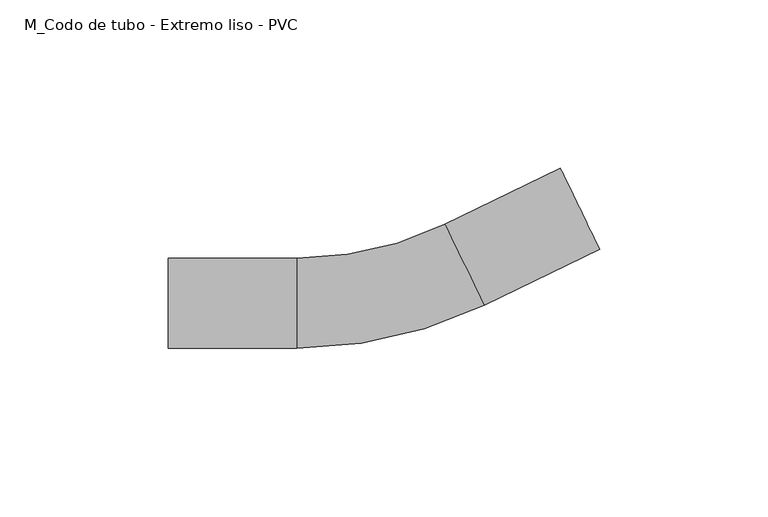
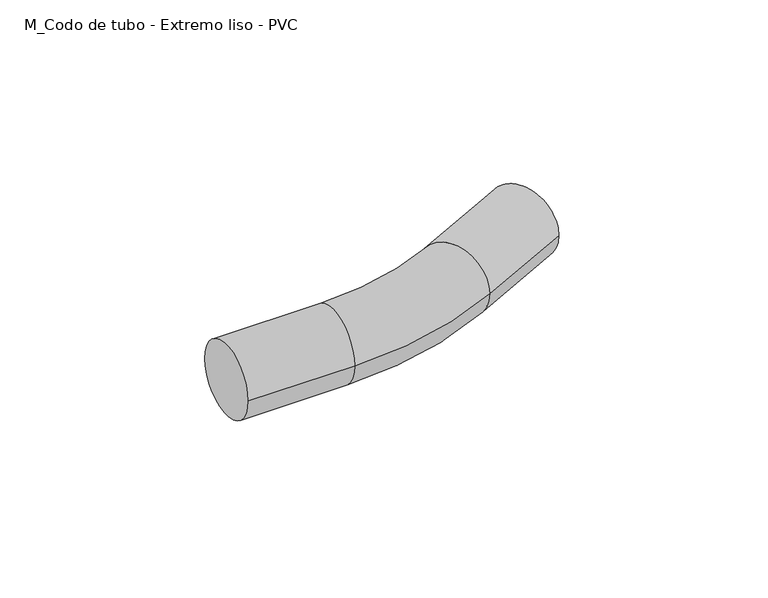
"""IFC4 building model written with IfcOpenShell, lengths in millimetres: cable carrier fitting geometry, M_Codo de tubo - Extremo liso - PVC : CODO POTENCIA."""

import ifcopenshell
import ifcopenshell.guid

model = None  # the IFC model being written
_history = None  # IfcOwnerHistory: only IFC2X3 demands one
_inside = {}  # id of a spatial element -> (the spatial element, [elements in it])
_under = {}  # id of a project, library or spatial element -> (it, [spatial elements below it])
_declared = {}  # id of a project -> (the project, [libraries it declares])
_typed = {}  # id of a type object -> (the type object, [elements of that type])
_made_of = {}  # id of a material, layer set ... -> (it, [elements and type objects made of it])


def new_model(schema):
    """Start an empty IFC model of exactly this schema.

    Asked for "IFC4X3", IfcOpenShell would pick the latest addendum, in which some entities
    have other attributes; the version numbers below select the first issue.
    IFC2X3 requires an IfcOwnerHistory on every rooted entity: one is made here for all.
    """
    global model, _history
    if schema == "IFC4X3":
        model = ifcopenshell.file(schema_version=(4, 3, 0, 0))
    else:
        model = ifcopenshell.file(schema=schema)
    _inside.clear()
    _under.clear()
    _declared.clear()
    _typed.clear()
    _made_of.clear()
    _history = None
    if model.schema == "IFC2X3":
        org = make("IfcOrganization", Name="unknown")
        user = make(
            "IfcPersonAndOrganization",
            ThePerson=make("IfcPerson", FamilyName="unknown"),
            TheOrganization=org,
        )
        app = make(
            "IfcApplication",
            ApplicationDeveloper=org,
            Version="unknown",
            ApplicationFullName="unknown",
            ApplicationIdentifier="unknown",
        )
        _history = make(
            "IfcOwnerHistory",
            OwningUser=user,
            OwningApplication=app,
            ChangeAction="ADDED",
            CreationDate=0,
        )
    return model


def make(cls, **values):
    """One entity of the class cls with the attributes given. An attribute that is None is left unset."""
    return model.create_entity(
        cls, **{name: value for name, value in values.items() if value is not None}
    )


def rooted(cls, **values):
    """An entity with a GlobalId (a new one), such as an element, a storey or a relation."""
    return make(cls, GlobalId=ifcopenshell.guid.new(), OwnerHistory=_history, **values)


def si_unit(unit_type, name, prefix=None):
    """IfcSIUnit, for example si_unit("LENGTHUNIT", "METRE", prefix="MILLI")."""
    return make("IfcSIUnit", UnitType=unit_type, Prefix=prefix, Name=name)


def assignment(units):
    """IfcUnitAssignment: the units of a project."""
    return None if units is None else make("IfcUnitAssignment", Units=units)


def point(xyz):
    """IfcCartesianPoint."""
    return None if xyz is None else make("IfcCartesianPoint", Coordinates=xyz)


def direction(xyz):
    """IfcDirection."""
    return None if xyz is None else make("IfcDirection", DirectionRatios=xyz)


def frame(location, z_axis=None, x_axis=None):
    """IfcAxis2Placement3D, a coordinate frame: its origin and axes. An axis left out is left unset."""
    return make(
        "IfcAxis2Placement3D",
        Location=point(location),
        Axis=direction(z_axis),
        RefDirection=direction(x_axis),
    )


def origin():
    """The frame at (0, 0, 0) with its axes left unset."""
    return frame((0.0, 0.0, 0.0))


def place(relative_to, where):
    """IfcLocalPlacement: puts the frame where relative to a parent placement (None: the world)."""
    return make(
        "IfcLocalPlacement", PlacementRelTo=relative_to, RelativePlacement=where
    )


def context(
    kind, dimensions, precision=None, world=None, true_north=None, identifier=None
):
    """IfcGeometricRepresentationContext, for example the 3D "Model" context."""
    return make(
        "IfcGeometricRepresentationContext",
        ContextIdentifier=identifier,
        ContextType=kind,
        CoordinateSpaceDimension=dimensions,
        Precision=precision,
        WorldCoordinateSystem=world,
        TrueNorth=true_north,
    )


def project(units=None, contexts=None):
    """IfcProject with its units and contexts."""
    return rooted(
        "IfcProject",
        Name="project",
        RepresentationContexts=contexts,
        UnitsInContext=assignment(units),
    )


def spatial(cls, under=None, at=None, **own):
    """A site, building, storey or space (cls), placed at a placement, below another one or the project."""
    s = rooted(cls, ObjectPlacement=at, **own)
    if under is not None:
        _under.setdefault(under.id(), (under, []))[1].append(s)
    return s


def circle_curve(where, radius):
    """IfcCircle in the frame where."""
    return make("IfcCircle", Position=where, Radius=radius)


def ellipse_curve(where, semi_axis1, semi_axis2):
    """IfcEllipse in the frame where."""
    return make(
        "IfcEllipse", Position=where, SemiAxis1=semi_axis1, SemiAxis2=semi_axis2
    )


def trimmed(basis, trim1, trim2, sense, master):
    """IfcTrimmedCurve: the piece of a basis curve between two trims."""
    return make(
        "IfcTrimmedCurve",
        BasisCurve=basis,
        Trim1=trim1,
        Trim2=trim2,
        SenseAgreement=sense,
        MasterRepresentation=master,
    )


def shape(context_of_items, identifier, shape_type, items):
    """IfcShapeRepresentation: the items that make up one representation, for example the "Body"."""
    return make(
        "IfcShapeRepresentation",
        ContextOfItems=context_of_items,
        RepresentationIdentifier=identifier,
        RepresentationType=shape_type,
        Items=items,
    )


def source(mapping_origin, context_of_items, identifier, shape_type, items):
    """IfcRepresentationMap: a shape defined once, which mapped items show again and again."""
    return make(
        "IfcRepresentationMap",
        MappingOrigin=mapping_origin,
        MappedRepresentation=shape(context_of_items, identifier, shape_type, items),
    )


def transform(
    local_origin,
    x_axis=None,
    y_axis=None,
    z_axis=None,
    scale=None,
    scale2=None,
    scale3=None,
    uniform=True,
):
    """IfcCartesianTransformationOperator3D, or its non-uniform kind. x_axis, y_axis, z_axis: its Axis1, 2, 3."""
    if uniform:
        return make(
            "IfcCartesianTransformationOperator3D",
            Axis1=direction(x_axis),
            Axis2=direction(y_axis),
            LocalOrigin=point(local_origin),
            Scale=scale,
            Axis3=direction(z_axis),
        )
    return make(
        "IfcCartesianTransformationOperator3DnonUniform",
        Axis1=direction(x_axis),
        Axis2=direction(y_axis),
        LocalOrigin=point(local_origin),
        Scale=scale,
        Axis3=direction(z_axis),
        Scale2=scale2,
        Scale3=scale3,
    )


def mapped(mapping_source, mapping_target):
    """IfcMappedItem: shows the shape of a source again, moved by a transform."""
    return make(
        "IfcMappedItem", MappingSource=mapping_source, MappingTarget=mapping_target
    )


def made_of(thing, what):
    """Note that an element or type object is made of a material, layer set ...; save() writes the relation."""
    if what is not None:
        _made_of.setdefault(what.id(), (what, []))[1].append(thing)
    return thing


def element(
    cls,
    number,
    at=None,
    inside=None,
    cuts=None,
    type_object=None,
    material=None,
    context=None,
    identifier="Body",
    shape_type=None,
    held_by="IfcProductDefinitionShape",
    body=None,
    shapes=None,
    **own,
):
    """One element of the class cls, such as IfcWall. Its Tag is "e" and its number.

    at: its placement. inside: the storey or other place that contains it. cuts: it is an
    opening in that element (IfcRelVoidsElement). A single representation is given by context,
    identifier, shape_type and body (its items); several are given by shapes. held_by: the class
    of the entity that holds the representations. save() writes the other relations.
    """
    e = rooted(cls, Tag="e%d" % number, ObjectPlacement=at, **own)
    if body is not None:
        shapes = [shape(context, identifier, shape_type, body)]
    if shapes is not None:
        e.Representation = make(held_by, Representations=shapes)
    if inside is not None:
        _inside.setdefault(inside.id(), (inside, []))[1].append(e)
    if cuts is not None:
        rooted(
            "IfcRelVoidsElement", RelatingBuildingElement=cuts, RelatedOpeningElement=e
        )
    if type_object is not None:
        _typed.setdefault(type_object.id(), (type_object, []))[1].append(e)
    return made_of(e, material)


def aggregate(whole, parts):
    """IfcRelAggregates: a whole, such as a stair, and the parts it consists of."""
    return rooted("IfcRelAggregates", RelatingObject=whole, RelatedObjects=parts)


def save(model, path):
    """Write the relations noted so far, then the file.

    IfcRelAggregates (storeys below a building ...), IfcRelContainedInSpatialStructure (elements
    in a storey), IfcRelDefinesByType, IfcRelAssociatesMaterial and IfcRelDeclares: one each for
    every whole, place, type object, material and project.
    """
    for whole, parts in _under.values():
        aggregate(whole, parts)
    for where, things in _inside.values():
        rooted(
            "IfcRelContainedInSpatialStructure",
            RelatedElements=things,
            RelatingStructure=where,
        )
    for kind, things in _typed.values():
        rooted("IfcRelDefinesByType", RelatedObjects=things, RelatingType=kind)
    for what, things in _made_of.values():
        rooted("IfcRelAssociatesMaterial", RelatedObjects=things, RelatingMaterial=what)
    for by, libraries in _declared.values():
        rooted("IfcRelDeclares", RelatingContext=by, RelatedDefinitions=libraries)
    model.write(path)


def plane_surface(at):
    """IfcPlane: the flat surface through the origin of the frame at, square to its z axis."""
    return make("IfcPlane", Position=at)


def cylinder_surface(at, radius):
    """IfcCylindricalSurface: all points at the distance radius from the z axis of the frame at."""
    return make("IfcCylindricalSurface", Position=at, Radius=radius)


def revolved_surface(curve, axis_point, axis_direction):
    """IfcSurfaceOfRevolution: the curve turned about the line through axis_point along axis_direction."""
    return make(
        "IfcSurfaceOfRevolution",
        SweptCurve=make("IfcArbitraryOpenProfileDef", ProfileType="CURVE", Curve=curve),
        AxisPosition=make("IfcAxis1Placement", Location=point(axis_point), Axis=direction(axis_direction)),
    )


def advanced_brep(points, edges, surfaces, faces):
    """IfcAdvancedBrep: a solid bounded by faces that lie on surfaces and meet in shared edges.

    An edge is (start, end): straight between two places in points (the first is 0);
    or (start, end, curve); or (start, end, curve, False) where it runs against its curve.
    A face is (place in surfaces, loops), or (place, loops, False) where it looks against
    its surface's normal. A loop lists edges by number (the first is 1), with a minus sign
    where the edge is run from its end to its start. The first loop is the outer one.
    """
    corners = [point(p) for p in points]
    vertices = [make("IfcVertexPoint", VertexGeometry=c) for c in corners]
    made = []
    for start, end, *more in edges:
        made.append(
            make(
                "IfcEdgeCurve",
                EdgeStart=vertices[start],
                EdgeEnd=vertices[end],
                EdgeGeometry=more[0] if more else make("IfcPolyline", Points=[corners[start], corners[end]]),
                SameSense=more[1] if len(more) > 1 else True,
            )
        )
    hull = []
    for where, loops, *sense in faces:
        bounds = []
        for j, loop in enumerate(loops):
            ring = [make("IfcOrientedEdge", EdgeElement=made[abs(k) - 1], Orientation=k > 0) for k in loop]
            bounds.append(
                make(
                    "IfcFaceOuterBound" if j == 0 else "IfcFaceBound",
                    Bound=make("IfcEdgeLoop", EdgeList=ring),
                    Orientation=True,
                )
            )
        hull.append(make("IfcAdvancedFace", Bounds=bounds, FaceSurface=surfaces[where], SameSense=sense[0] if sense else True))
    return make("IfcAdvancedBrep", Outer=make("IfcClosedShell", CfsFaces=hull))


def m_codo_de_tubo_extremo_liso_pvc_985155b1(model_context):
    return source(origin(), model_context, "Body", "AdvancedBrep", [
        advanced_brep(
        [(-64.3068417, -13.335, 0.0), (-64.3068417, 13.335, 0.0), (-26.2068417, -13.335, 0.0), (-26.2068417, 13.335, 0.0), (17.7795529, 23.4202535, 0.0), (29.3986005, -0.5857172, 0.0), (63.6928444, 16.0129222, 0.0), (52.0737968, 40.018893, 0.0)],
        [
            (0, 1, circle_curve(frame((-64.3068417, 0.0, 0.0), z_axis=(-1.0, 0.0, 0.0), x_axis=(0.0, 1.0, 0.0)), 13.335)),
            (1, 0, circle_curve(frame((-64.3068417, 0.0, 0.0), z_axis=(-1.0, 0.0, 0.0), x_axis=(0.0, 1.0, 0.0)), 13.335)),
            (0, 2),
            (2, 3, circle_curve(frame((-26.2068417, 0.0, 0.0), z_axis=(-1.0, 0.0, 0.0), x_axis=(0.0, 1.0, 0.0)), 13.335)),
            (3, 1),
            (3, 2, circle_curve(frame((-26.2068417, 0.0, 0.0), z_axis=(-1.0, 0.0, 0.0), x_axis=(0.0, 1.0, 0.0)), 13.335)),
            (4, 3, circle_curve(frame((-26.2068417, 114.3, 0.0), z_axis=(0.0, 0.0, -1.0), x_axis=(0.0, -1.0, 0.0)), 100.965)),
            (2, 5, circle_curve(frame((-26.2068417, 114.3, 0.0), z_axis=(0.0, 0.0, 1.0), x_axis=(0.0, -1.0, 0.0)), 127.635)),
            (5, 4, circle_curve(frame((23.5890767, 11.4172681, 0.0), z_axis=(-0.9001113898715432, -0.43565982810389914, 0.0), x_axis=(-0.43565982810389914, 0.9001113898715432, 0.0)), 13.335)),
            (4, 5, circle_curve(frame((23.5890767, 11.4172681, 0.0), z_axis=(-0.9001113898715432, -0.43565982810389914, 0.0), x_axis=(-0.43565982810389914, 0.9001113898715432, 0.0)), 13.335)),
            (6, 7, circle_curve(frame((57.8833206, 28.0159076, 0.0), z_axis=(0.9001113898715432, 0.43565982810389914, 0.0), x_axis=(-0.43565982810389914, 0.9001113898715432, 0.0)), 13.335)),
            (7, 6, circle_curve(frame((57.8833206, 28.0159076, 0.0), z_axis=(0.9001113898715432, 0.43565982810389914, 0.0), x_axis=(-0.43565982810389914, 0.9001113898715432, 0.0)), 13.335)),
            (5, 6),
            (7, 4),
        ],
        [
            plane_surface(frame((-64.3068417, 0.0, 0.0), z_axis=(-1.0, 0.0, 0.0), x_axis=(0.0, 0.0, 1.0))),
            cylinder_surface(frame((-64.3068417, 0.0, 0.0), z_axis=(-1.0, 0.0, 0.0), x_axis=(0.0, 1.0, 0.0)), 13.335),
            revolved_surface(trimmed(ellipse_curve(frame((-26.2068417, 0.0, 0.0), z_axis=(-1.0, 0.0, 0.0), x_axis=(0.0, 1.0, 0.0)), 13.335, 13.335), [point((-26.2068417, -13.335, 0.0))], [point((-26.2068417, 13.335, 0.0))], True, "CARTESIAN"), (-26.2068417, 114.3, 0.0), (0.0, 0.0, 1.0)),
            revolved_surface(trimmed(ellipse_curve(frame((-26.2068417, 0.0, 0.0), z_axis=(-1.0, 0.0, 0.0), x_axis=(0.0, 1.0, 0.0)), 13.335, 13.335), [point((-26.2068417, 13.335, 0.0))], [point((-26.2068417, -13.335, 0.0))], True, "CARTESIAN"), (-26.2068417, 114.3, 0.0), (0.0, 0.0, 1.0)),
            plane_surface(frame((57.8833206, 28.0159076, 0.0), z_axis=(0.9001113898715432, 0.43565982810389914, 0.0), x_axis=(0.0, 0.0, 1.0))),
            cylinder_surface(frame((23.5890767, 11.4172681, 0.0), z_axis=(-0.9001113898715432, -0.43565982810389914, 0.0), x_axis=(-0.43565982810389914, 0.9001113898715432, 0.0)), 13.335),
        ],
        [
            (0, [[1, 2]]),
            (1, [[-1, 3, 4, 5]]),
            (1, [[-2, -5, 6, -3]]),
            (2, [[7, -4, 8, 9]]),
            (3, [[-8, -6, -7, 10]]),
            (4, [[11, 12]]),
            (5, [[-9, 13, -12, 14]]),
            (5, [[-10, -14, -11, -13]]),
        ],
    ),
    ])


if __name__ == "__main__":
    model = new_model("IFC4")
    model_context = context("Model", 3, world=origin())
    ifc_project = project(units=[si_unit("LENGTHUNIT", "METRE", prefix="MILLI")], contexts=[model_context])
    site = spatial("IfcSite", under=ifc_project)
    building = spatial("IfcBuilding", under=site)
    placement = place(None, origin())
    m_codo_de_tubo_extremo_liso_pvc_shape = m_codo_de_tubo_extremo_liso_pvc_985155b1(model_context)
    element("IfcCableCarrierFitting", 1, ObjectType="M_Codo de tubo - Extremo liso - PVC : CODO POTENCIA", at=placement, inside=building, context=model_context, shape_type="MappedRepresentation", body=[
        mapped(m_codo_de_tubo_extremo_liso_pvc_shape, transform((0.0, 0.0, 0.0), x_axis=(1.0, 0.0, 0.0), y_axis=(0.0, 1.0, 0.0), z_axis=(0.0, 0.0, 1.0))),
    ])
    save(model, "model.ifc")
